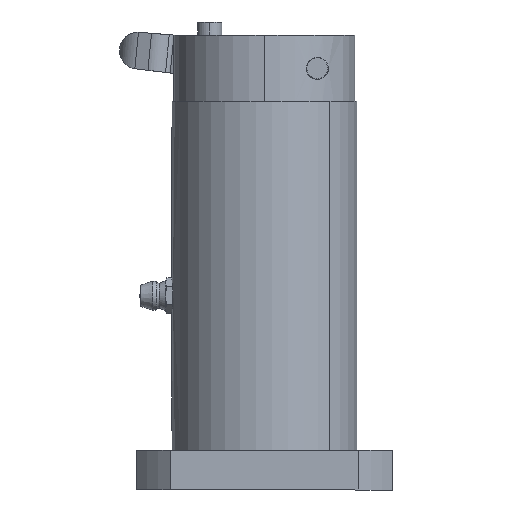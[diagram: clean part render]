
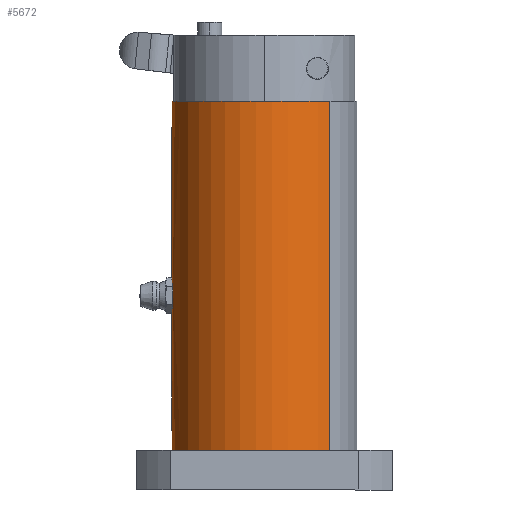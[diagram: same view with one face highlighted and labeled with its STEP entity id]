
A CAD part, left-side view. The second image highlights one B-rep face of the part: STEP entity #5672.
In plain terms, the highlighted cylindrical face has radius 21 mm (diameter 42 mm), a partial arc.
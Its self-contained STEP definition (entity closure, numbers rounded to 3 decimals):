
#117 =( BOUNDED_CURVE ( )  B_SPLINE_CURVE ( 3, ( #2937, #6322, #10562, #1037 ),
 .UNSPECIFIED., .F., .F. ) 
 B_SPLINE_CURVE_WITH_KNOTS ( ( 4, 4 ),
 ( 4.545, 4.712 ),
 .UNSPECIFIED. ) 
 CURVE ( )  GEOMETRIC_REPRESENTATION_ITEM ( )  RATIONAL_B_SPLINE_CURVE ( ( 1., 0.998, 0.998, 1. ) ) 
 REPRESENTATION_ITEM ( '' )  );
#281 = LINE ( 'NONE', #4721, #477 ) ;
#339 = ORIENTED_EDGE ( 'NONE', *, *, #1928, .T. ) ;
#477 = VECTOR ( 'NONE', #2099, 1000. ) ;
#604 = EDGE_CURVE ( 'NONE', #2923, #10396, #117, .T. ) ;
#640 = CARTESIAN_POINT ( 'NONE',  ( -4.781, 20.658, 103.844 ) ) ;
#678 = CARTESIAN_POINT ( 'NONE',  ( 6.569, 14.801, 66.823 ) ) ;
#807 = FACE_OUTER_BOUND ( 'NONE', #1563, .T. ) ;
#1037 = CARTESIAN_POINT ( 'NONE',  ( -8.281, 20.951, 97.782 ) ) ;
#1038 = CARTESIAN_POINT ( 'NONE',  ( -8.281, 20.951, 105.865 ) ) ;
#1150 = CARTESIAN_POINT ( 'NONE',  ( -7.107, 20.951, 105.187 ) ) ;
#1215 = CARTESIAN_POINT ( 'NONE',  ( -4.781, 20.658, 103.844 ) ) ;
#1344 = LINE ( 'NONE', #10289, #6379 ) ;
#1355 =( BOUNDED_CURVE ( )  B_SPLINE_CURVE ( 3, ( #7538, #2438, #1473, #4117 ),
 .UNSPECIFIED., .F., .F. ) 
 B_SPLINE_CURVE_WITH_KNOTS ( ( 4, 4 ),
 ( 4.712, 4.88 ),
 .UNSPECIFIED. ) 
 CURVE ( )  GEOMETRIC_REPRESENTATION_ITEM ( )  RATIONAL_B_SPLINE_CURVE ( ( 1., 0.998, 0.998, 1. ) ) 
 REPRESENTATION_ITEM ( '' )  );
#1358 = LINE ( 'NONE', #7264, #8041 ) ;
#1473 = CARTESIAN_POINT ( 'NONE',  ( -5.938, 20.853, 99.135 ) ) ;
#1561 = EDGE_CURVE ( 'NONE', #7712, #10157, #281, .T. ) ;
#1562 = DIRECTION ( 'NONE',  ( 0.707, 0.707, 0. ) ) ;
#1563 = EDGE_LOOP ( 'NONE', ( #5843, #6982, #4725, #6236 ) ) ;
#1683 = AXIS2_PLACEMENT_3D ( 'NONE', #6837, #3296, #1562 ) ;
#1767 = VERTEX_POINT ( 'NONE', #10966 ) ;
#1861 = EDGE_CURVE ( 'NONE', #3647, #7712, #8832, .T. ) ;
#1928 = EDGE_CURVE ( 'NONE', #3777, #3829, #6350, .T. ) ;
#2017 = EDGE_CURVE ( 'NONE', #3829, #8267, #11097, .T. ) ;
#2099 = DIRECTION ( 'NONE',  ( 0., 0., -1. ) ) ;
#2156 = EDGE_LOOP ( 'NONE', ( #10342, #339, #5506, #6139, #4962, #5348 ) ) ;
#2308 = DIRECTION ( 'NONE',  ( 0., 0., -1. ) ) ;
#2438 = CARTESIAN_POINT ( 'NONE',  ( -7.107, 20.951, 98.459 ) ) ;
#2494 = CIRCLE ( 'NONE', #8168, 21. ) ;
#2517 = CARTESIAN_POINT ( 'NONE',  ( -11.781, 20.658, 99.803 ) ) ;
#2815 = CARTESIAN_POINT ( 'NONE',  ( -11.781, 20.658, 103.844 ) ) ;
#2923 = VERTEX_POINT ( 'NONE', #2517 ) ;
#2937 = CARTESIAN_POINT ( 'NONE',  ( -11.781, 20.658, 99.803 ) ) ;
#2960 = CARTESIAN_POINT ( 'NONE',  ( -8.281, -0.049, 66.823 ) ) ;
#3091 = LINE ( 'NONE', #4716, #5695 ) ;
#3296 = DIRECTION ( 'NONE',  ( 0., 0., -1. ) ) ;
#3452 = CARTESIAN_POINT ( 'NONE',  ( -23.13, -14.898, 145.823 ) ) ;
#3647 = VERTEX_POINT ( 'NONE', #3452 ) ;
#3753 = DIRECTION ( 'NONE',  ( 0., 0., -1. ) ) ;
#3777 = VERTEX_POINT ( 'NONE', #1215 ) ;
#3787 = DIRECTION ( 'NONE',  ( 0., 0., -1. ) ) ;
#3829 = VERTEX_POINT ( 'NONE', #8914 ) ;
#3978 = EDGE_CURVE ( 'NONE', #3647, #11189, #1358, .T. ) ;
#4117 = CARTESIAN_POINT ( 'NONE',  ( -4.781, 20.658, 99.803 ) ) ;
#4716 = CARTESIAN_POINT ( 'NONE',  ( -4.781, 20.658, 99.803 ) ) ;
#4721 = CARTESIAN_POINT ( 'NONE',  ( 6.569, 14.801, 106.323 ) ) ;
#4725 = ORIENTED_EDGE ( 'NONE', *, *, #1561, .T. ) ;
#4962 = ORIENTED_EDGE ( 'NONE', *, *, #604, .T. ) ;
#5335 = CARTESIAN_POINT ( 'NONE',  ( -8.281, 20.951, 105.865 ) ) ;
#5348 = ORIENTED_EDGE ( 'NONE', *, *, #8971, .T. ) ;
#5373 = CARTESIAN_POINT ( 'NONE',  ( -11.781, 20.658, 103.844 ) ) ;
#5506 = ORIENTED_EDGE ( 'NONE', *, *, #2017, .T. ) ;
#5672 = ADVANCED_FACE ( 'NONE', ( #807, #11072 ), #7745, .T. ) ;
#5688 = CARTESIAN_POINT ( 'NONE',  ( -23.13, -14.898, 66.823 ) ) ;
#5695 = VECTOR ( 'NONE', #6591, 1000. ) ;
#5843 = ORIENTED_EDGE ( 'NONE', *, *, #3978, .F. ) ;
#5942 = CARTESIAN_POINT ( 'NONE',  ( -8.281, -0.049, 106.323 ) ) ;
#6017 = CARTESIAN_POINT ( 'NONE',  ( 6.569, 14.801, 145.823 ) ) ;
#6139 = ORIENTED_EDGE ( 'NONE', *, *, #7812, .T. ) ;
#6236 = ORIENTED_EDGE ( 'NONE', *, *, #6876, .F. ) ;
#6322 = CARTESIAN_POINT ( 'NONE',  ( -10.624, 20.853, 99.135 ) ) ;
#6350 =( BOUNDED_CURVE ( )  B_SPLINE_CURVE ( 3, ( #640, #7173, #1150, #5335 ),
 .UNSPECIFIED., .F., .F. ) 
 B_SPLINE_CURVE_WITH_KNOTS ( ( 4, 4 ),
 ( 1.403, 1.571 ),
 .UNSPECIFIED. ) 
 CURVE ( )  GEOMETRIC_REPRESENTATION_ITEM ( )  RATIONAL_B_SPLINE_CURVE ( ( 1., 0.998, 0.998, 1. ) ) 
 REPRESENTATION_ITEM ( '' )  );
#6379 = VECTOR ( 'NONE', #2308, 1000. ) ;
#6591 = DIRECTION ( 'NONE',  ( 0., 0., 1. ) ) ;
#6837 = CARTESIAN_POINT ( 'NONE',  ( -8.281, -0.049, 145.823 ) ) ;
#6876 = EDGE_CURVE ( 'NONE', #11189, #10157, #2494, .T. ) ;
#6982 = ORIENTED_EDGE ( 'NONE', *, *, #1861, .T. ) ;
#7173 = CARTESIAN_POINT ( 'NONE',  ( -5.938, 20.853, 104.512 ) ) ;
#7238 = DIRECTION ( 'NONE',  ( 0.707, 0.707, 0. ) ) ;
#7264 = CARTESIAN_POINT ( 'NONE',  ( -23.13, -14.898, 106.323 ) ) ;
#7538 = CARTESIAN_POINT ( 'NONE',  ( -8.281, 20.951, 97.782 ) ) ;
#7712 = VERTEX_POINT ( 'NONE', #6017 ) ;
#7745 = CYLINDRICAL_SURFACE ( 'NONE', #9139, 21. ) ;
#7812 = EDGE_CURVE ( 'NONE', #8267, #2923, #1344, .T. ) ;
#8041 = VECTOR ( 'NONE', #3787, 1000. ) ;
#8168 = AXIS2_PLACEMENT_3D ( 'NONE', #2960, #3753, #7238 ) ;
#8267 = VERTEX_POINT ( 'NONE', #5373 ) ;
#8510 = EDGE_CURVE ( 'NONE', #1767, #3777, #3091, .T. ) ;
#8832 = CIRCLE ( 'NONE', #1683, 21. ) ;
#8914 = CARTESIAN_POINT ( 'NONE',  ( -8.281, 20.951, 105.865 ) ) ;
#8971 = EDGE_CURVE ( 'NONE', #10396, #1767, #1355, .T. ) ;
#9009 = CARTESIAN_POINT ( 'NONE',  ( -8.281, 20.951, 97.782 ) ) ;
#9139 = AXIS2_PLACEMENT_3D ( 'NONE', #5942, #9428, #11303 ) ;
#9428 = DIRECTION ( 'NONE',  ( 0., 0., -1. ) ) ;
#9756 = CARTESIAN_POINT ( 'NONE',  ( -10.624, 20.853, 104.512 ) ) ;
#9875 = CARTESIAN_POINT ( 'NONE',  ( -9.454, 20.951, 105.187 ) ) ;
#10157 = VERTEX_POINT ( 'NONE', #678 ) ;
#10289 = CARTESIAN_POINT ( 'NONE',  ( -11.781, 20.658, 103.844 ) ) ;
#10342 = ORIENTED_EDGE ( 'NONE', *, *, #8510, .T. ) ;
#10396 = VERTEX_POINT ( 'NONE', #9009 ) ;
#10562 = CARTESIAN_POINT ( 'NONE',  ( -9.454, 20.951, 98.459 ) ) ;
#10966 = CARTESIAN_POINT ( 'NONE',  ( -4.781, 20.658, 99.803 ) ) ;
#11072 = FACE_BOUND ( 'NONE', #2156, .T. ) ;
#11097 =( BOUNDED_CURVE ( )  B_SPLINE_CURVE ( 3, ( #1038, #9875, #9756, #2815 ),
 .UNSPECIFIED., .F., .F. ) 
 B_SPLINE_CURVE_WITH_KNOTS ( ( 4, 4 ),
 ( 1.571, 1.738 ),
 .UNSPECIFIED. ) 
 CURVE ( )  GEOMETRIC_REPRESENTATION_ITEM ( )  RATIONAL_B_SPLINE_CURVE ( ( 1., 0.998, 0.998, 1. ) ) 
 REPRESENTATION_ITEM ( '' )  );
#11189 = VERTEX_POINT ( 'NONE', #5688 ) ;
#11303 = DIRECTION ( 'NONE',  ( 0.707, 0.707, 0. ) ) ;
